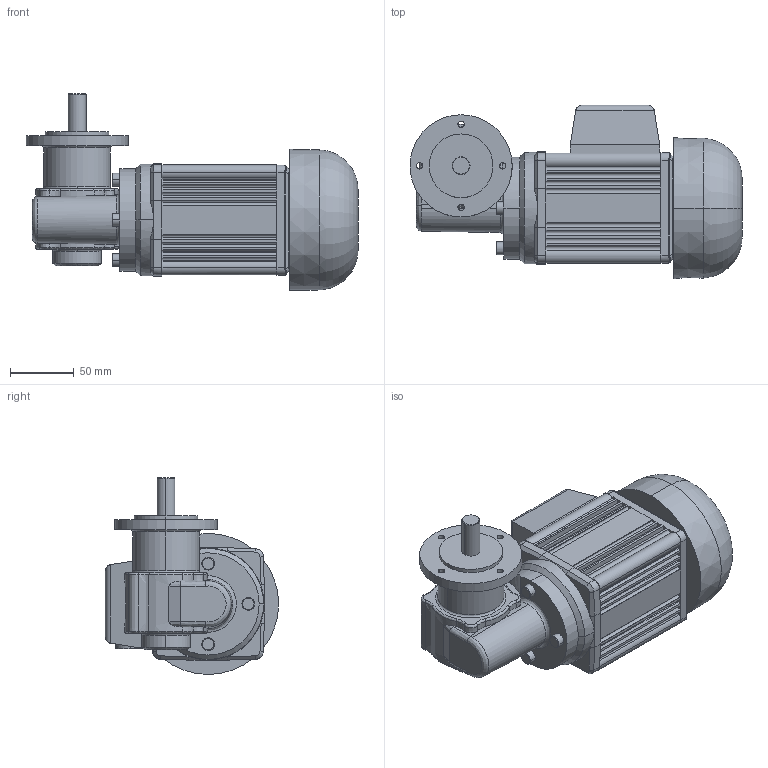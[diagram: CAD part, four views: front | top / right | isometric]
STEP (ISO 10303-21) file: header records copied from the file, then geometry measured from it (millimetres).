
FILE_DESCRIPTION(('OneSpaceDesigner STEP Export'),'2;1');
FILE_NAME('OEG51_GF132_F.stp','2008-06-18T15:13:38',(''),(''),'OneSpace Designer STEP processor (Jan. 2003) for AP214(CD)(Solid Model)','OneSpace Designer 12.01D 09-Jul-2004 (C) CoCreate Software GmbH','');
FILE_SCHEMA(('AUTOMOTIVE_DESIGN_CC2 {1 2 10303 214 -1 1 5 1}'));
Length unit declared in the file: millimetre
Products named in the file (2): OEG51_GF132_F
Assembly tree (1 placements, depth 2):
  OEG51_GF132_F
    OEG51_GF132_F
Bounding box: 260 x 135.73 x 154.25 mm (x, y, z)
Volume: 1854939.5 mm3; surface area: 148972 mm2
Topology: 1 solids, 1 shells, 424 faces, 1117 edges, 693 vertices
Faces by surface type: plane 197, cylinder 111, bspline 63, extrusion 25, cone 20, torus 8
Entity records: 24056 total; most frequent: CARTESIAN_POINT 14936, ORIENTED_EDGE 2234, DIRECTION 1437, EDGE_CURVE 1117, VERTEX_POINT 693, VECTOR 589, LINE 571, EDGE_LOOP 442
